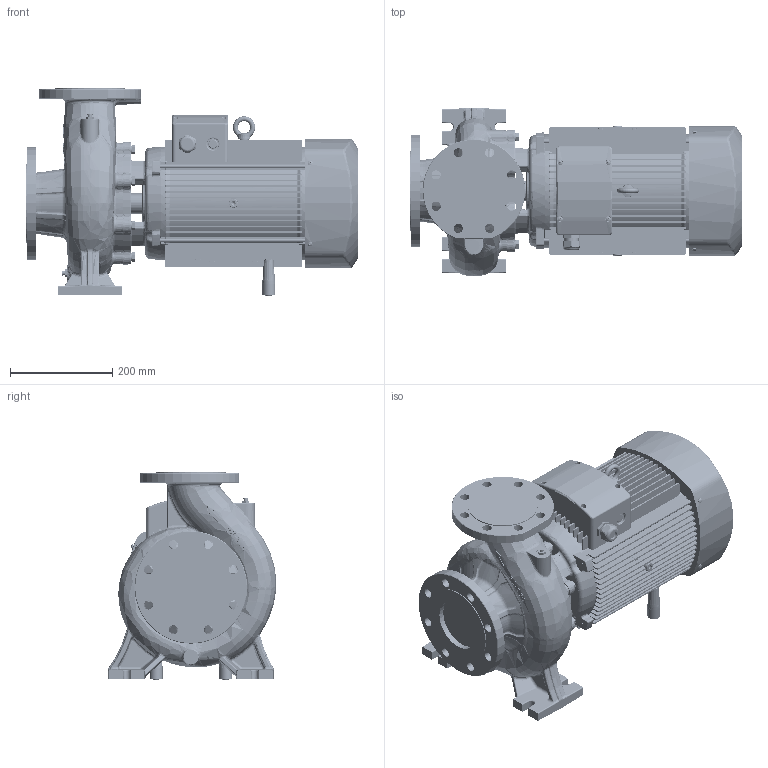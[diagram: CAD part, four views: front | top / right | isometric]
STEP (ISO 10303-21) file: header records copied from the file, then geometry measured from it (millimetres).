
FILE_DESCRIPTION (( 'STEP AP203' ), '1' );
FILE_NAME ('TST80-160-11 15 安装尺寸图.STEP', '2026-04-28T09:21:45', ( '微软用户' ), ( '微软中国' ), 'SwSTEP 2.0', 'SolidWorks 2020', '' );
FILE_SCHEMA (( 'CONFIG_CONTROL_DESIGN' ));
Products named in the file (1): TST80-160-11 15 假蚾喜渡芞
Bounding box: 649 x 328.88 x 405.6 mm (x, y, z)
Volume: 29572322.9 mm3; surface area: 1631023.5 mm2
Topology: 1 solids, 3 shells, 4579 faces, 11301 edges, 7087 vertices
Faces by surface type: plane 1418, cylinder 1298, bspline 974, torus 411, cone 384, sphere 94
Entity records: 181300 total; most frequent: CARTESIAN_POINT 78924, ORIENTED_EDGE 22558, DIRECTION 20065, EDGE_CURVE 11279, AXIS2_PLACEMENT_3D 8264, VERTEX_POINT 7087, EDGE_LOOP 5044, CIRCLE 4658
